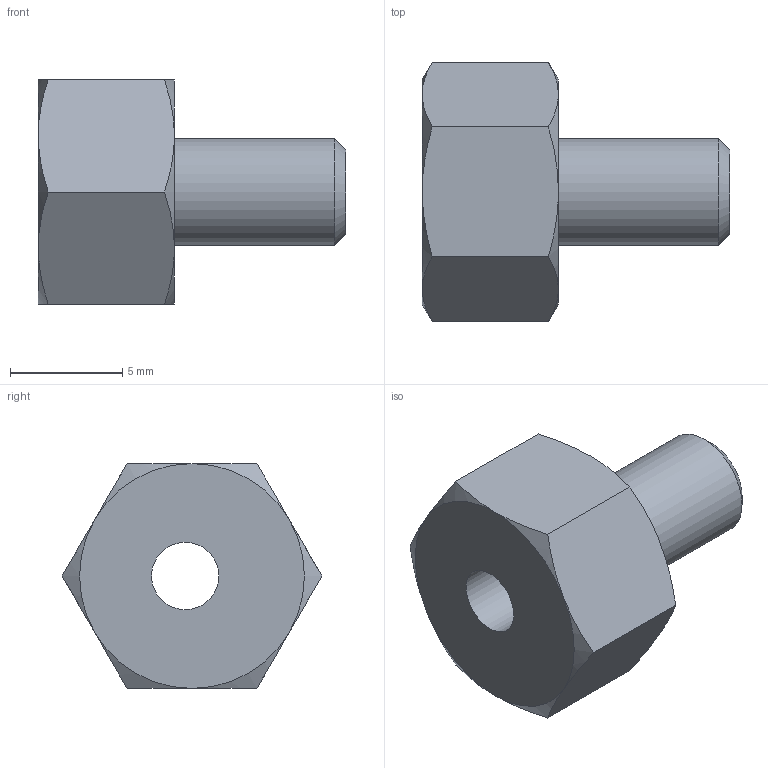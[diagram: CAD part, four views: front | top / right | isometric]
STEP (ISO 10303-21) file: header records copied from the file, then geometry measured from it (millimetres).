
FILE_DESCRIPTION (( 'STEP AP214' ), '1' );
FILE_NAME ('SB1E.STEP', '2021-06-11T01:19:00', ( '' ), ( '' ), 'SwSTEP 2.0', 'SolidWorks 2019', '' );
FILE_SCHEMA (( 'AUTOMOTIVE_DESIGN' ));
Length unit declared in the file: millimetre
Products named in the file (1): SB1E
Bounding box: 13.68 x 11.55 x 10 mm (x, y, z)
Volume: 559.2 mm3; surface area: 598.8 mm2
Topology: 1 solids, 1 shells, 24 faces, 50 edges, 29 vertices
Faces by surface type: cone 13, plane 9, cylinder 2
Full cylindrical faces by diameter (mm): 3 x1, 4.75 x1
Entity records: 626 total; most frequent: CARTESIAN_POINT 149, ORIENTED_EDGE 94, DIRECTION 90, EDGE_CURVE 47, AXIS2_PLACEMENT_3D 42, EDGE_LOOP 30, VERTEX_POINT 29, FACE_OUTER_BOUND 26
